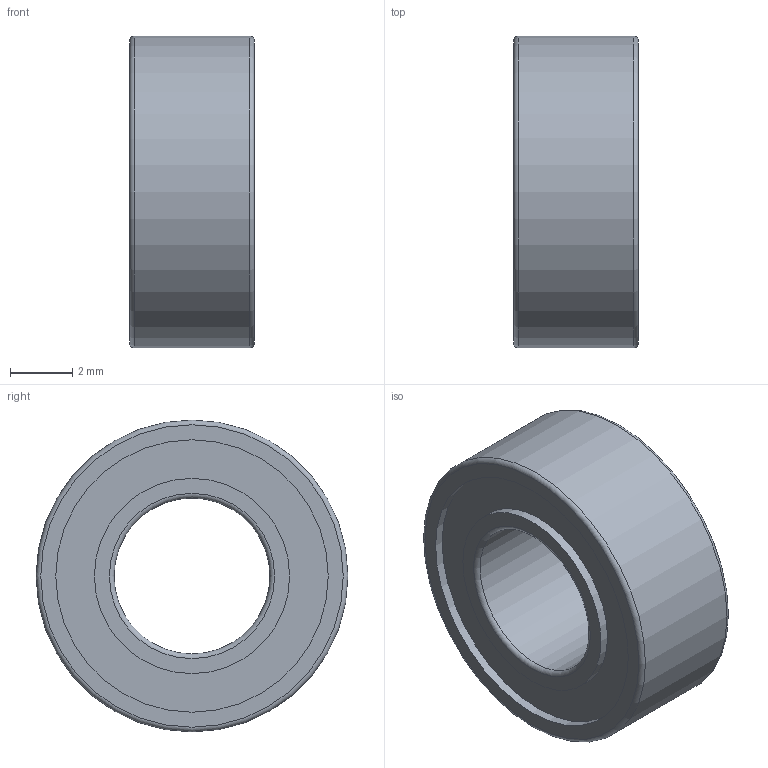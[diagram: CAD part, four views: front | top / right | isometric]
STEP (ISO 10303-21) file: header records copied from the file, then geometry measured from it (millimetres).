
FILE_DESCRIPTION(/* description */ (''),/* implementation_level */ '2;1');
FILE_NAME(/* name */ 'Mini V-Slot Wheel Bearing MR105ZZ v1.step',/* time_stamp */ '2025-06-18T09:24:57+02:00',/* author */ (''),/* organization */ (''),/* preprocessor_version */ 'ST-DEVELOPER v20.1',/* originating_system */ 'Autodesk Translation Framework v14.10.0.0',/* authorisation */ '');
FILE_SCHEMA (('AUTOMOTIVE_DESIGN { 1 0 10303 214 3 1 1 }'));
Length unit declared in the file: millimetre
Products named in the file (1): MR105ZZ
Bounding box: 4 x 10 x 10 mm (x, y, z)
Volume: 217.6 mm3; surface area: 328.5 mm2
Topology: 1 solids, 1 shells, 16 faces, 26 edges, 16 vertices
Faces by surface type: cylinder 6, plane 6, torus 4
Full cylindrical faces by diameter (mm): 5 x1, 6.26 x2, 8.74 x2, 10 x1
Entity records: 422 total; most frequent: DIRECTION 80, CARTESIAN_POINT 59, ORIENTED_EDGE 52, AXIS2_PLACEMENT_3D 37, EDGE_CURVE 26, EDGE_LOOP 22, CIRCLE 20, FACE_OUTER_BOUND 16
